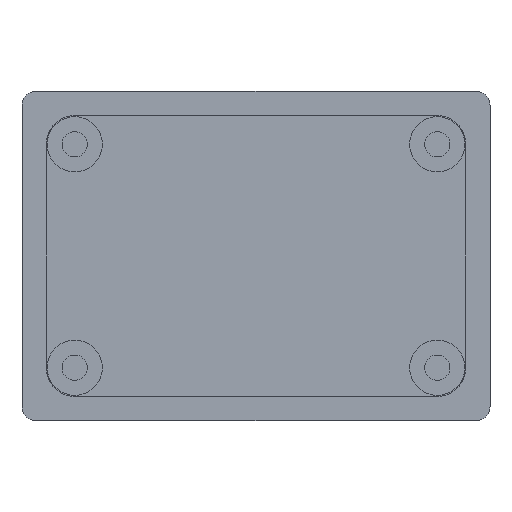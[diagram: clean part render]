
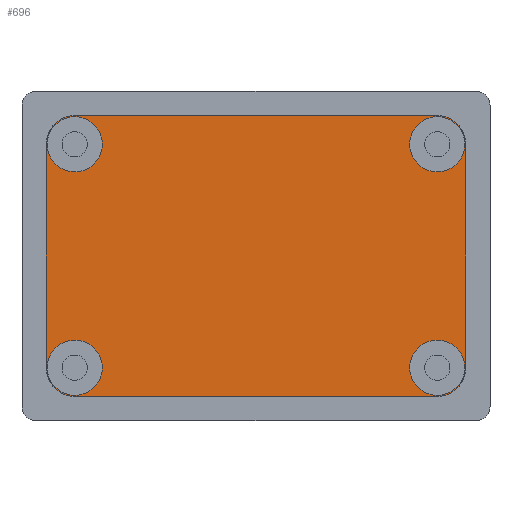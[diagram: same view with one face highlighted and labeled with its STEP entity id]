
A CAD part, front view. The second image highlights one B-rep face of the part: STEP entity #696.
In plain terms, the highlighted planar face has unit normal (0, -1, 0).
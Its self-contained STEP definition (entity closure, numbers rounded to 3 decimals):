
#3 = CARTESIAN_POINT ( 'NONE',  ( 15., 11., 8.05 ) ) ;
#5 = ORIENTED_EDGE ( 'NONE', *, *, #1493, .T. ) ;
#6 = EDGE_CURVE ( 'NONE', #1072, #37, #450, .T. ) ;
#13 = CARTESIAN_POINT ( 'NONE',  ( -13., 11., -10.05 ) ) ;
#16 = CARTESIAN_POINT ( 'NONE',  ( -12.975, 11., 9.975 ) ) ;
#17 = EDGE_CURVE ( 'NONE', #1054, #1106, #421, .T. ) ;
#21 = EDGE_CURVE ( 'NONE', #602, #458, #517, .T. ) ;
#37 = VERTEX_POINT ( 'NONE', #69 ) ;
#60 = CARTESIAN_POINT ( 'NONE',  ( 15., 11., 10.05 ) ) ;
#67 = EDGE_LOOP ( 'NONE', ( #785, #624 ) ) ;
#69 = CARTESIAN_POINT ( 'NONE',  ( -15., 11., 8.05 ) ) ;
#78 = EDGE_CURVE ( 'NONE', #458, #602, #94, .T. ) ;
#82 = VERTEX_POINT ( 'NONE', #3 ) ;
#83 = AXIS2_PLACEMENT_3D ( 'NONE', #959, #953, #860 ) ;
#86 = DIRECTION ( 'NONE',  ( 0., 0., -1. ) ) ;
#92 = CARTESIAN_POINT ( 'NONE',  ( -15., 11., -10.05 ) ) ;
#94 = CIRCLE ( 'NONE', #842, 1.975 ) ;
#98 = DIRECTION ( 'NONE',  ( 0., -1., 0. ) ) ;
#105 = CARTESIAN_POINT ( 'NONE',  ( 12.975, 11., 8. ) ) ;
#117 = CIRCLE ( 'NONE', #1373, 1.975 ) ;
#147 = CARTESIAN_POINT ( 'NONE',  ( 12.975, 11., 8. ) ) ;
#166 = AXIS2_PLACEMENT_3D ( 'NONE', #760, #739, #724 ) ;
#206 = VERTEX_POINT ( 'NONE', #954 ) ;
#216 = DIRECTION ( 'NONE',  ( 0., 0., -1. ) ) ;
#222 = DIRECTION ( 'NONE',  ( 0., -1., 0. ) ) ;
#223 = DIRECTION ( 'NONE',  ( 1., 0., 0. ) ) ;
#230 = CARTESIAN_POINT ( 'NONE',  ( -12.975, 11., -8. ) ) ;
#234 = DIRECTION ( 'NONE',  ( 0., 0., -1. ) ) ;
#248 = DIRECTION ( 'NONE',  ( 0., -1., 0. ) ) ;
#251 = CARTESIAN_POINT ( 'NONE',  ( 12.975, 11., 9.975 ) ) ;
#256 = ORIENTED_EDGE ( 'NONE', *, *, #21, .F. ) ;
#267 = CARTESIAN_POINT ( 'NONE',  ( -12.975, 11., 8. ) ) ;
#276 = DIRECTION ( 'NONE',  ( 0., 0., -1. ) ) ;
#309 = EDGE_LOOP ( 'NONE', ( #418, #1431 ) ) ;
#337 = CARTESIAN_POINT ( 'NONE',  ( -12.975, 11., -9.975 ) ) ;
#343 = EDGE_LOOP ( 'NONE', ( #1413, #942, #1401, #1521, #5, #1156, #1189, #1036 ) ) ;
#345 = CARTESIAN_POINT ( 'NONE',  ( -13., 11., 10.05 ) ) ;
#346 = VERTEX_POINT ( 'NONE', #16 ) ;
#352 = DIRECTION ( 'NONE',  ( 0., -1., 0. ) ) ;
#353 = EDGE_CURVE ( 'NONE', #1046, #1248, #678, .T. ) ;
#418 = ORIENTED_EDGE ( 'NONE', *, *, #913, .F. ) ;
#421 = CIRCLE ( 'NONE', #1314, 1.975 ) ;
#440 = ORIENTED_EDGE ( 'NONE', *, *, #78, .F. ) ;
#447 = AXIS2_PLACEMENT_3D ( 'NONE', #1351, #1340, #1335 ) ;
#450 = CIRCLE ( 'NONE', #1462, 2. ) ;
#458 = VERTEX_POINT ( 'NONE', #1020 ) ;
#477 = CARTESIAN_POINT ( 'NONE',  ( 12.975, 11., -6.025 ) ) ;
#480 = VERTEX_POINT ( 'NONE', #969 ) ;
#513 = AXIS2_PLACEMENT_3D ( 'NONE', #646, #1119, #1359 ) ;
#517 = CIRCLE ( 'NONE', #1285, 1.975 ) ;
#520 = EDGE_CURVE ( 'NONE', #1106, #1054, #117, .T. ) ;
#528 = CARTESIAN_POINT ( 'NONE',  ( -15., 11., 10.05 ) ) ;
#530 = AXIS2_PLACEMENT_3D ( 'NONE', #973, #968, #883 ) ;
#540 = EDGE_LOOP ( 'NONE', ( #1559, #1471 ) ) ;
#579 = DIRECTION ( 'NONE',  ( 0., 0., -1. ) ) ;
#583 = CARTESIAN_POINT ( 'NONE',  ( -13., 11., 8.05 ) ) ;
#586 = DIRECTION ( 'NONE',  ( 0., -1., 0. ) ) ;
#591 = DIRECTION ( 'NONE',  ( 0., 0., -1. ) ) ;
#596 = DIRECTION ( 'NONE',  ( 0., -1., 0. ) ) ;
#599 = CARTESIAN_POINT ( 'NONE',  ( -12.975, 11., -8. ) ) ;
#602 = VERTEX_POINT ( 'NONE', #251 ) ;
#604 = PLANE ( 'NONE',  #972 ) ;
#624 = ORIENTED_EDGE ( 'NONE', *, *, #520, .F. ) ;
#636 = VECTOR ( 'NONE', #985, 1000. ) ;
#646 = CARTESIAN_POINT ( 'NONE',  ( 13., 11., 8.05 ) ) ;
#650 = VERTEX_POINT ( 'NONE', #825 ) ;
#673 = LINE ( 'NONE', #1302, #636 ) ;
#678 = CIRCLE ( 'NONE', #447, 1.975 ) ;
#682 = EDGE_CURVE ( 'NONE', #1556, #346, #1153, .T. ) ;
#696 = ADVANCED_FACE ( 'NONE', ( #929, #831, #939, #815, #797 ), #604, .T. ) ;
#707 = EDGE_LOOP ( 'NONE', ( #256, #440 ) ) ;
#715 = CARTESIAN_POINT ( 'NONE',  ( 12.975, 11., -9.975 ) ) ;
#724 = DIRECTION ( 'NONE',  ( 0., 0., -1. ) ) ;
#739 = DIRECTION ( 'NONE',  ( 0., -1., 0. ) ) ;
#740 = CARTESIAN_POINT ( 'NONE',  ( 0., 11., 0. ) ) ;
#760 = CARTESIAN_POINT ( 'NONE',  ( 13., 11., -8.05 ) ) ;
#785 = ORIENTED_EDGE ( 'NONE', *, *, #17, .F. ) ;
#795 = CIRCLE ( 'NONE', #852, 1.975 ) ;
#796 = VERTEX_POINT ( 'NONE', #874 ) ;
#797 = FACE_BOUND ( 'NONE', #707, .T. ) ;
#815 = FACE_BOUND ( 'NONE', #67, .T. ) ;
#825 = CARTESIAN_POINT ( 'NONE',  ( -15., 11., -8.05 ) ) ;
#831 = FACE_BOUND ( 'NONE', #309, .T. ) ;
#842 = AXIS2_PLACEMENT_3D ( 'NONE', #147, #893, #1468 ) ;
#848 = EDGE_CURVE ( 'NONE', #1248, #1046, #1298, .T. ) ;
#852 = AXIS2_PLACEMENT_3D ( 'NONE', #267, #248, #234 ) ;
#860 = DIRECTION ( 'NONE',  ( 0., 0., -1. ) ) ;
#874 = CARTESIAN_POINT ( 'NONE',  ( 15., 11., -8.05 ) ) ;
#883 = DIRECTION ( 'NONE',  ( 0., 0., -1. ) ) ;
#893 = DIRECTION ( 'NONE',  ( 0., -1., 0. ) ) ;
#913 = EDGE_CURVE ( 'NONE', #346, #1556, #795, .T. ) ;
#929 = FACE_BOUND ( 'NONE', #540, .T. ) ;
#939 = FACE_OUTER_BOUND ( 'NONE', #343, .T. ) ;
#942 = ORIENTED_EDGE ( 'NONE', *, *, #1082, .T. ) ;
#953 = DIRECTION ( 'NONE',  ( 0., -1., 0. ) ) ;
#954 = CARTESIAN_POINT ( 'NONE',  ( 13., 11., 10.05 ) ) ;
#959 = CARTESIAN_POINT ( 'NONE',  ( -12.975, 11., 8. ) ) ;
#968 = DIRECTION ( 'NONE',  ( 0., -1., 0. ) ) ;
#969 = CARTESIAN_POINT ( 'NONE',  ( 13., 11., -10.05 ) ) ;
#972 = AXIS2_PLACEMENT_3D ( 'NONE', #740, #596, #591 ) ;
#973 = CARTESIAN_POINT ( 'NONE',  ( 12.975, 11., -8. ) ) ;
#985 = DIRECTION ( 'NONE',  ( 0., 0., -1. ) ) ;
#992 = EDGE_CURVE ( 'NONE', #37, #650, #673, .T. ) ;
#1017 = DIRECTION ( 'NONE',  ( 0., 0., -1. ) ) ;
#1020 = CARTESIAN_POINT ( 'NONE',  ( 12.975, 11., 6.025 ) ) ;
#1036 = ORIENTED_EDGE ( 'NONE', *, *, #6, .T. ) ;
#1046 = VERTEX_POINT ( 'NONE', #715 ) ;
#1054 = VERTEX_POINT ( 'NONE', #1080 ) ;
#1072 = VERTEX_POINT ( 'NONE', #345 ) ;
#1080 = CARTESIAN_POINT ( 'NONE',  ( -12.975, 11., -6.025 ) ) ;
#1082 = EDGE_CURVE ( 'NONE', #650, #1532, #1265, .T. ) ;
#1106 = VERTEX_POINT ( 'NONE', #337 ) ;
#1115 = CARTESIAN_POINT ( 'NONE',  ( -12.975, 11., 6.025 ) ) ;
#1119 = DIRECTION ( 'NONE',  ( 0., -1., 0. ) ) ;
#1153 = CIRCLE ( 'NONE', #83, 1.975 ) ;
#1156 = ORIENTED_EDGE ( 'NONE', *, *, #1517, .T. ) ;
#1189 = ORIENTED_EDGE ( 'NONE', *, *, #1571, .T. ) ;
#1213 = EDGE_CURVE ( 'NONE', #1532, #480, #1313, .T. ) ;
#1234 = EDGE_CURVE ( 'NONE', #480, #796, #1421, .T. ) ;
#1248 = VERTEX_POINT ( 'NONE', #477 ) ;
#1265 = CIRCLE ( 'NONE', #1456, 2. ) ;
#1280 = DIRECTION ( 'NONE',  ( 0., 0., 1. ) ) ;
#1285 = AXIS2_PLACEMENT_3D ( 'NONE', #105, #98, #86 ) ;
#1298 = CIRCLE ( 'NONE', #530, 1.975 ) ;
#1302 = CARTESIAN_POINT ( 'NONE',  ( -15., 11., 10.05 ) ) ;
#1313 = LINE ( 'NONE', #92, #1389 ) ;
#1314 = AXIS2_PLACEMENT_3D ( 'NONE', #230, #222, #216 ) ;
#1335 = DIRECTION ( 'NONE',  ( 0., 0., -1. ) ) ;
#1340 = DIRECTION ( 'NONE',  ( 0., -1., 0. ) ) ;
#1346 = DIRECTION ( 'NONE',  ( 0., -1., 0. ) ) ;
#1351 = CARTESIAN_POINT ( 'NONE',  ( 12.975, 11., -8. ) ) ;
#1359 = DIRECTION ( 'NONE',  ( 0., 0., -1. ) ) ;
#1370 = LINE ( 'NONE', #528, #1506 ) ;
#1371 = DIRECTION ( 'NONE',  ( -1., 0., 0. ) ) ;
#1373 = AXIS2_PLACEMENT_3D ( 'NONE', #599, #586, #579 ) ;
#1389 = VECTOR ( 'NONE', #223, 1000. ) ;
#1399 = VECTOR ( 'NONE', #1280, 1000. ) ;
#1401 = ORIENTED_EDGE ( 'NONE', *, *, #1213, .T. ) ;
#1413 = ORIENTED_EDGE ( 'NONE', *, *, #992, .T. ) ;
#1421 = CIRCLE ( 'NONE', #166, 2. ) ;
#1431 = ORIENTED_EDGE ( 'NONE', *, *, #682, .F. ) ;
#1456 = AXIS2_PLACEMENT_3D ( 'NONE', #1485, #1346, #1017 ) ;
#1462 = AXIS2_PLACEMENT_3D ( 'NONE', #583, #352, #276 ) ;
#1468 = DIRECTION ( 'NONE',  ( 0., 0., -1. ) ) ;
#1471 = ORIENTED_EDGE ( 'NONE', *, *, #353, .F. ) ;
#1472 = CIRCLE ( 'NONE', #513, 2. ) ;
#1485 = CARTESIAN_POINT ( 'NONE',  ( -13., 11., -8.05 ) ) ;
#1493 = EDGE_CURVE ( 'NONE', #796, #82, #1537, .T. ) ;
#1506 = VECTOR ( 'NONE', #1371, 1000. ) ;
#1517 = EDGE_CURVE ( 'NONE', #82, #206, #1472, .T. ) ;
#1521 = ORIENTED_EDGE ( 'NONE', *, *, #1234, .T. ) ;
#1532 = VERTEX_POINT ( 'NONE', #13 ) ;
#1537 = LINE ( 'NONE', #60, #1399 ) ;
#1556 = VERTEX_POINT ( 'NONE', #1115 ) ;
#1559 = ORIENTED_EDGE ( 'NONE', *, *, #848, .F. ) ;
#1571 = EDGE_CURVE ( 'NONE', #206, #1072, #1370, .T. ) ;
